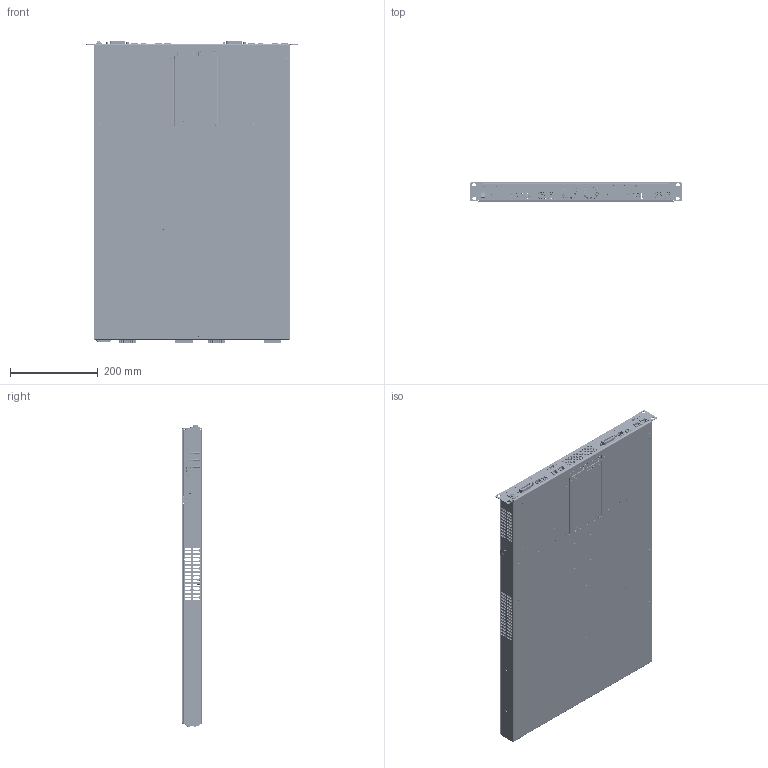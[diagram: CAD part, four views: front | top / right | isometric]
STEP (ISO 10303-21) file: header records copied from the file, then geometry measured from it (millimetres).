
FILE_DESCRIPTION((''),'2;1');
FILE_NAME('2606B_ASM','2023-05-31T09:52:49',('u607888'),(''),'CREO PARAMETRIC BY PTC INC, 2022284','CREO PARAMETRIC BY PTC INC, 2022284','');
FILE_SCHEMA(('CONFIG_CONTROL_DESIGN','SHAPE_APPEARANCE_LAYERS_GROUPS'));
Products named in the file (44): 3868079; PEM-BS-032-2; PEM-BS-632-2; PEM-CLS-440-2; PEM-SOS-440-6; PEM-FHS-632-6; PEM-SOS-6440-10; PEM-SOS-6440-6; PEM-BSOS-6440-14; PEM-BSOS-6440-12; PEM-BSOS-6440-32; PEM-SOS-632-8; PEM-SOS-4116-6; TM8161; TM8162; 3868079_ASM; 1198906; CS-507; CS-1150; CS-1209; CS-1032; 8781578_ASM; 2603075-RA-HOUSING-BLACK; 2603075-RA-ACTUATOR-9CW; 2603075-TERMINAL-P; 2603075-RA1129CWP_ASM; 2603075_ASM; 1198907; CA-311; CA-311_ASM; 4076118; 4076118_ASM; 4076119; 4076119_ASM; 4076123; PEM-CLS-440-1; 4076123_ASM; CS-1194-8; 2602-100_ASM; 3868080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
Assembly tree (122 placements, depth 4):
  2606B_ASM
    3868079_ASM
      3868079
      PEM-BS-032-2  x4
      PEM-BS-632-2
      PEM-CLS-440-2  x4
      PEM-SOS-440-6  x15
      PEM-FHS-632-6  x5
      PEM-SOS-6440-10  x8
      PEM-SOS-6440-6  x5
      PEM-BSOS-6440-14  x2
      PEM-BSOS-6440-12  x6
      PEM-BSOS-6440-32  x4
      PEM-SOS-632-8  x4
      PEM-SOS-4116-6  x4
      TM8161
      TM8162
    1198906
    8781578_ASM  x2
      CS-507
      CS-1150
      CS-1209
      CS-1032
    2603075_ASM
      2603075-RA1129CWP_ASM
        2603075-RA-HOUSING-BLACK
        2603075-RA-ACTUATOR-9CW
        2603075-TERMINAL-P  x2
    1198907
    CA-311_ASM  x2
      CA-311
    4076118_ASM
      4076118
      PEM-SOS-440-6  x4
    4076119_ASM
      4076119
      PEM-SOS-440-6  x4
    4076123_ASM  x2
      4076123
      PEM-CLS-440-1
    2602-100_ASM  x4
      CS-1194-8
    3868080
    3521173  x5
    4-40X1-4PFH  x4
    CS-725  x4
Bounding box: 482.6 x 43.69 x 688.26 mm (x, y, z)
Volume: 1455539.2 mm3; surface area: 1843240.6 mm2
Topology: 149 solids, 283 shells, 23890 faces, 64394 edges, 40897 vertices
Faces by surface type: plane 12105, cylinder 7518, torus 2527, cone 816, bspline 504, extrusion 263, sphere 157
Entity records: 903590 total; most frequent: CARTESIAN_POINT 197269, ORIENTED_EDGE 98838, DIRECTION 94735, PRESENTATION_STYLE_ASSIGNMENT 61468, STYLED_ITEM 61119, EDGE_CURVE 49447, CURVE_STYLE 46915, AXIS2_PLACEMENT_3D 33886
